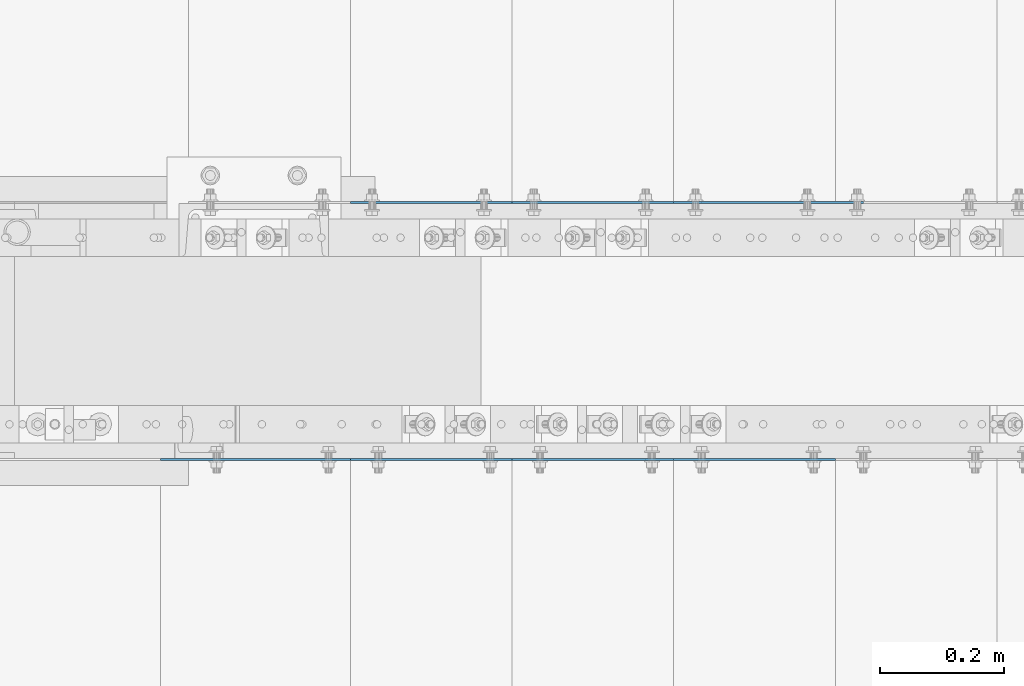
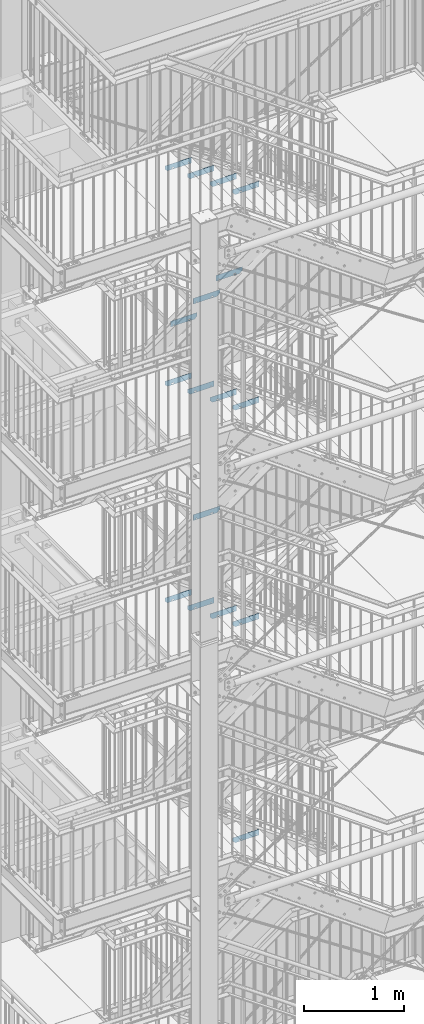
# One storey, part 169 of 825: 17 plates, 34 openings.
"""IFC2X3 building model written with IfcOpenShell, lengths in millimetres."""

from ifc_helpers import new_model, entity, si_unit, converted_unit, point, frame, frame_2d, origin, origin_with_axes, origin_2d_with_axis, place, context, project, spatial, polyline, circle_curve, line_curve, trimmed, segment, composite_curve, circle, outline, extrude, material, layer, layer_set, element, save


model = new_model("IFC2X3")

# Units and contexts
model_context = context("Model", 3, precision=1e-09, world=origin_with_axes())
ifc_project = project(units=[si_unit("LENGTHUNIT", "METRE", prefix="MILLI"), si_unit("AREAUNIT", "SQUARE_METRE"), si_unit("VOLUMEUNIT", "CUBIC_METRE"), converted_unit("PLANEANGLEUNIT", "DEGREE", entity("IfcPlaneAngleMeasure", 0.01745329), si_unit("PLANEANGLEUNIT", "RADIAN"), dimensions=[0, 0, 0, 0, 0, 0, 0])], contexts=[model_context])

# Site, building, storey
site_placement = place(None, origin_with_axes())
site = spatial("IfcSite", under=ifc_project, at=site_placement, Name="Cnopf'sche Kinderklinik", CompositionType="ELEMENT")
building_placement = place(site_placement, origin_with_axes())
building = spatial("IfcBuilding", under=site, at=building_placement, Name="Struktur 1", CompositionType="ELEMENT")
storey_placement = place(building_placement, origin_with_axes())
storey = spatial("IfcBuildingStorey", under=building, at=storey_placement, Name="Default Storey", CompositionType="ELEMENT", Elevation=0.0)

# Plate, openings
ifc_material = material(Name="S235JR")
ifc_layer = layer(ifc_material, 3.0)
ifc_layer_set = layer_set([ifc_layer], Name="S235JR")
plate_1_placement = place(None, frame((5756.713402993, 6149.736971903, 12995.4285716), z_axis=(0.0, -1.0, 0.0), x_axis=(0.0, 0.0, -1.0)))
plate_1 = element("IfcPlate", 1, at=plate_1_placement, inside=storey, material=ifc_layer_set, Name="Grate_Step#10", ObjectType="Grate_Step#10", context=model_context, shape_type="SweptSolid", body=[
    extrude(outline(polyline([(0.0, 0.0), (70.0, 0.0), (70.0, 275.0), (40.0, 305.0), (0.0, 305.0), (0.0, 0.0)])), origin_with_axes(), (0.0, 0.0, 1.0), 3.0),
])
opening_1_placement = place(plate_1_placement, frame((55.0, 215.0, -0.5), z_axis=(0.0, 0.0, 1.0), x_axis=(0.0, 1.0, 0.0)))
element("IfcOpeningElement", 2, at=opening_1_placement, cuts=plate_1, ObjectType="Opening", context=model_context, shape_type="SweptSolid", body=[
    extrude(outline(composite_curve([segment(trimmed(line_curve((-9.5, -7.001), (1.0, 0.0), 19.0), [point((-9.5, -7.001))], [point((9.5, -7.001))], True, "CARTESIAN"), True, "CONTINUOUS"), segment(trimmed(circle_curve(frame_2d((9.5, 0.0), x_axis=(1.0, 0.0)), 7.001), [point((9.5, -7.001))], [point((9.5, 7.001))], True, "CARTESIAN"), True, "CONTINUOUS"), segment(trimmed(line_curve((9.5, 7.001), (-1.0, 0.0), 19.0), [point((9.5, 7.001))], [point((-9.5, 7.001))], True, "CARTESIAN"), True, "CONTINUOUS"), segment(trimmed(circle_curve(frame_2d((-9.5, 0.0), x_axis=(1.0, 0.0)), 7.001), [point((-9.5, 7.001))], [point((-9.5, -7.001))], True, "CARTESIAN"), True, "CONTINUOUS")], self_intersect=False)), origin(), (0.0, 0.0, 1.0), 4.0),
])
opening_2_placement = place(plate_1_placement, frame((55.0, 35.0, -0.5), z_axis=(0.0, 0.0, 1.0), x_axis=(0.0, 1.0, 0.0)))
element("IfcOpeningElement", 3, at=opening_2_placement, cuts=plate_1, ObjectType="Opening", context=model_context, shape_type="SweptSolid", body=[
    extrude(circle(Radius=7.001, at=origin_2d_with_axis()), origin(), (0.0, 0.0, 1.0), 4.0),
])

plate_2_placement = place(None, frame((6016.713402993, 6149.736971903, 15815.4285719), z_axis=(0.0, -1.0, 0.0), x_axis=(0.0, 0.0, -1.0)))
plate_2 = element("IfcPlate", 4, at=plate_2_placement, inside=storey, material=ifc_layer_set, Name="Grate_Step#17", ObjectType="Grate_Step#17", context=model_context, shape_type="SweptSolid", body=[
    extrude(outline(polyline([(0.0, 0.0), (70.0, 0.0), (70.0, 275.0), (40.0, 305.0), (0.0, 305.0), (0.0, 0.0)])), origin_with_axes(), (0.0, 0.0, 1.0), 3.0),
])
opening_3_placement = place(plate_2_placement, frame((55.0, 35.0, -0.5), z_axis=(0.0, 0.0, 1.0), x_axis=(0.0, 1.0, 0.0)))
element("IfcOpeningElement", 5, at=opening_3_placement, cuts=plate_2, ObjectType="Opening", context=model_context, shape_type="SweptSolid", body=[
    extrude(circle(Radius=7.001, at=origin_2d_with_axis()), origin(), (0.0, 0.0, 1.0), 4.0),
])
opening_4_placement = place(plate_2_placement, frame((55.0, 215.0, -0.5), z_axis=(0.0, 0.0, 1.0), x_axis=(0.0, 1.0, 0.0)))
element("IfcOpeningElement", 6, at=opening_4_placement, cuts=plate_2, ObjectType="Opening", context=model_context, shape_type="SweptSolid", body=[
    extrude(outline(composite_curve([segment(trimmed(line_curve((-9.5, -7.001), (1.0, 0.0), 19.0), [point((-9.5, -7.001))], [point((9.5, -7.001))], True, "CARTESIAN"), True, "CONTINUOUS"), segment(trimmed(circle_curve(frame_2d((9.5, 0.0), x_axis=(1.0, 0.0)), 7.001), [point((9.5, -7.001))], [point((9.5, 7.001))], True, "CARTESIAN"), True, "CONTINUOUS"), segment(trimmed(line_curve((9.5, 7.001), (-1.0, 0.0), 19.0), [point((9.5, 7.001))], [point((-9.5, 7.001))], True, "CARTESIAN"), True, "CONTINUOUS"), segment(trimmed(circle_curve(frame_2d((-9.5, 0.0), x_axis=(1.0, 0.0)), 7.001), [point((-9.5, 7.001))], [point((-9.5, -7.001))], True, "CARTESIAN"), True, "CONTINUOUS")], self_intersect=False)), origin(), (0.0, 0.0, 1.0), 4.0),
])

plate_3_placement = place(None, frame((5496.713402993, 6149.736971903, 15441.1428577), z_axis=(0.0, -1.0, 0.0), x_axis=(0.0, 0.0, -1.0)))
plate_3 = element("IfcPlate", 7, at=plate_3_placement, inside=storey, material=ifc_layer_set, Name="Grate_Step#3", ObjectType="Grate_Step#3", context=model_context, shape_type="SweptSolid", body=[
    extrude(outline(polyline([(0.0, 0.0), (70.0, 0.0), (70.0, 275.0), (40.0, 305.0), (0.0, 305.0), (0.0, 0.0)])), origin_with_axes(), (0.0, 0.0, 1.0), 3.0),
])
opening_5_placement = place(plate_3_placement, frame((55.0, 35.0, -0.5), z_axis=(0.0, 0.0, 1.0), x_axis=(0.0, 1.0, 0.0)))
element("IfcOpeningElement", 8, at=opening_5_placement, cuts=plate_3, ObjectType="Opening", context=model_context, shape_type="SweptSolid", body=[
    extrude(circle(Radius=7.001, at=origin_2d_with_axis()), origin(), (0.0, 0.0, 1.0), 4.0),
])
opening_6_placement = place(plate_3_placement, frame((55.0, 215.0, -0.5), z_axis=(0.0, 0.0, 1.0), x_axis=(0.0, 1.0, 0.0)))
element("IfcOpeningElement", 9, at=opening_6_placement, cuts=plate_3, ObjectType="Opening", context=model_context, shape_type="SweptSolid", body=[
    extrude(outline(composite_curve([segment(trimmed(line_curve((-9.5, -7.001), (1.0, 0.0), 19.0), [point((-9.5, -7.001))], [point((9.5, -7.001))], True, "CARTESIAN"), True, "CONTINUOUS"), segment(trimmed(circle_curve(frame_2d((9.5, 0.0), x_axis=(1.0, 0.0)), 7.001), [point((9.5, -7.001))], [point((9.5, 7.001))], True, "CARTESIAN"), True, "CONTINUOUS"), segment(trimmed(line_curve((9.5, 7.001), (-1.0, 0.0), 19.0), [point((9.5, 7.001))], [point((-9.5, 7.001))], True, "CARTESIAN"), True, "CONTINUOUS"), segment(trimmed(circle_curve(frame_2d((-9.5, 0.0), x_axis=(1.0, 0.0)), 7.001), [point((-9.5, 7.001))], [point((-9.5, -7.001))], True, "CARTESIAN"), True, "CONTINUOUS")], self_intersect=False)), origin(), (0.0, 0.0, 1.0), 4.0),
])

plate_4_placement = place(None, frame((5756.713402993, 6149.736971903, 15628.2857148), z_axis=(0.0, -1.0, 0.0), x_axis=(0.0, 0.0, -1.0)))
plate_4 = element("IfcPlate", 10, at=plate_4_placement, inside=storey, material=ifc_layer_set, Name="Grate_Step#10", ObjectType="Grate_Step#10", context=model_context, shape_type="SweptSolid", body=[
    extrude(outline(polyline([(0.0, 0.0), (70.0, 0.0), (70.0, 275.0), (40.0, 305.0), (0.0, 305.0), (0.0, 0.0)])), origin_with_axes(), (0.0, 0.0, 1.0), 3.0),
])
opening_7_placement = place(plate_4_placement, frame((55.0, 215.0, -0.5), z_axis=(0.0, 0.0, 1.0), x_axis=(0.0, 1.0, 0.0)))
element("IfcOpeningElement", 11, at=opening_7_placement, cuts=plate_4, ObjectType="Opening", context=model_context, shape_type="SweptSolid", body=[
    extrude(outline(composite_curve([segment(trimmed(line_curve((-9.5, -7.001), (1.0, 0.0), 19.0), [point((-9.5, -7.001))], [point((9.5, -7.001))], True, "CARTESIAN"), True, "CONTINUOUS"), segment(trimmed(circle_curve(frame_2d((9.5, 0.0), x_axis=(1.0, 0.0)), 7.001), [point((9.5, -7.001))], [point((9.5, 7.001))], True, "CARTESIAN"), True, "CONTINUOUS"), segment(trimmed(line_curve((9.5, 7.001), (-1.0, 0.0), 19.0), [point((9.5, 7.001))], [point((-9.5, 7.001))], True, "CARTESIAN"), True, "CONTINUOUS"), segment(trimmed(circle_curve(frame_2d((-9.5, 0.0), x_axis=(1.0, 0.0)), 7.001), [point((-9.5, 7.001))], [point((-9.5, -7.001))], True, "CARTESIAN"), True, "CONTINUOUS")], self_intersect=False)), origin(), (0.0, 0.0, 1.0), 4.0),
])
opening_8_placement = place(plate_4_placement, frame((55.0, 35.0, -0.5), z_axis=(0.0, 0.0, 1.0), x_axis=(0.0, 1.0, 0.0)))
element("IfcOpeningElement", 12, at=opening_8_placement, cuts=plate_4, ObjectType="Opening", context=model_context, shape_type="SweptSolid", body=[
    extrude(circle(Radius=7.001, at=origin_2d_with_axis()), origin(), (0.0, 0.0, 1.0), 4.0),
])

plate_5_placement = place(None, frame((6016.713402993, 5733.736971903, 12056.0714287), z_axis=(0.0, 1.0, 0.0), x_axis=(0.0, 0.0, -1.0)))
plate_5 = element("IfcPlate", 13, at=plate_5_placement, inside=storey, material=ifc_layer_set, Name="Grate_Step#24", ObjectType="Grate_Step#24", context=model_context, shape_type="SweptSolid", body=[
    extrude(outline(polyline([(0.0, 0.0), (70.0, 0.0), (70.0, 275.0), (40.0, 305.0), (0.0, 305.0), (0.0, 0.0)])), origin_with_axes(), (0.0, 0.0, 1.0), 3.0),
])
opening_9_placement = place(plate_5_placement, frame((55.0, 215.0, -0.5), z_axis=(0.0, 0.0, 1.0), x_axis=(0.0, 1.0, 0.0)))
element("IfcOpeningElement", 14, at=opening_9_placement, cuts=plate_5, ObjectType="Opening", context=model_context, shape_type="SweptSolid", body=[
    extrude(outline(composite_curve([segment(trimmed(line_curve((-9.5, -7.001), (1.0, 0.0), 19.0), [point((-9.5, -7.001))], [point((9.5, -7.001))], True, "CARTESIAN"), True, "CONTINUOUS"), segment(trimmed(circle_curve(frame_2d((9.5, 0.0), x_axis=(1.0, 0.0)), 7.001), [point((9.5, -7.001))], [point((9.5, 7.001))], True, "CARTESIAN"), True, "CONTINUOUS"), segment(trimmed(line_curve((9.5, 7.001), (-1.0, 0.0), 19.0), [point((9.5, 7.001))], [point((-9.5, 7.001))], True, "CARTESIAN"), True, "CONTINUOUS"), segment(trimmed(circle_curve(frame_2d((-9.5, 0.0), x_axis=(1.0, 0.0)), 7.001), [point((-9.5, 7.001))], [point((-9.5, -7.001))], True, "CARTESIAN"), True, "CONTINUOUS")], self_intersect=False)), origin(), (0.0, 0.0, 1.0), 4.0),
])
opening_10_placement = place(plate_5_placement, frame((55.0, 35.0, -0.5), z_axis=(0.0, 0.0, 1.0), x_axis=(0.0, 1.0, 0.0)))
element("IfcOpeningElement", 15, at=opening_10_placement, cuts=plate_5, ObjectType="Opening", context=model_context, shape_type="SweptSolid", body=[
    extrude(circle(Radius=7.001, at=origin_2d_with_axis()), origin(), (0.0, 0.0, 1.0), 4.0),
])

plate_6_placement = place(None, frame((5496.713402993, 5733.736971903, 12431.3571429), z_axis=(0.0, 1.0, 0.0), x_axis=(0.0, 0.0, -1.0)))
plate_6 = element("IfcPlate", 16, at=plate_6_placement, inside=storey, material=ifc_layer_set, Name="Grate_Step#38", ObjectType="Grate_Step#38", context=model_context, shape_type="SweptSolid", body=[
    extrude(outline(polyline([(0.0, 0.0), (70.0, 0.0), (70.0, 275.0), (40.0, 305.0), (0.0, 305.0), (0.0, 0.0)])), origin_with_axes(), (0.0, 0.0, 1.0), 3.0),
])
opening_11_placement = place(plate_6_placement, frame((55.0, 35.0, -0.5), z_axis=(0.0, 0.0, 1.0), x_axis=(0.0, 1.0, 0.0)))
element("IfcOpeningElement", 17, at=opening_11_placement, cuts=plate_6, ObjectType="Opening", context=model_context, shape_type="SweptSolid", body=[
    extrude(circle(Radius=7.001, at=origin_2d_with_axis()), origin(), (0.0, 0.0, 1.0), 4.0),
])
opening_12_placement = place(plate_6_placement, frame((55.0, 215.0, -0.5), z_axis=(0.0, 0.0, 1.0), x_axis=(0.0, 1.0, 0.0)))
element("IfcOpeningElement", 18, at=opening_12_placement, cuts=plate_6, ObjectType="Opening", context=model_context, shape_type="SweptSolid", body=[
    extrude(outline(composite_curve([segment(trimmed(line_curve((-9.5, -7.001), (1.0, 0.0), 19.0), [point((-9.5, -7.001))], [point((9.5, -7.001))], True, "CARTESIAN"), True, "CONTINUOUS"), segment(trimmed(circle_curve(frame_2d((9.5, 0.0), x_axis=(1.0, 0.0)), 7.001), [point((9.5, -7.001))], [point((9.5, 7.001))], True, "CARTESIAN"), True, "CONTINUOUS"), segment(trimmed(line_curve((9.5, 7.001), (-1.0, 0.0), 19.0), [point((9.5, 7.001))], [point((-9.5, 7.001))], True, "CARTESIAN"), True, "CONTINUOUS"), segment(trimmed(circle_curve(frame_2d((-9.5, 0.0), x_axis=(1.0, 0.0)), 7.001), [point((-9.5, 7.001))], [point((-9.5, -7.001))], True, "CARTESIAN"), True, "CONTINUOUS")], self_intersect=False)), origin(), (0.0, 0.0, 1.0), 4.0),
])

plate_7_placement = place(None, frame((5756.713402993, 5733.736971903, 12243.7142858), z_axis=(0.0, 1.0, 0.0), x_axis=(0.0, 0.0, -1.0)))
plate_7 = element("IfcPlate", 19, at=plate_7_placement, inside=storey, material=ifc_layer_set, Name="Grate_Step#31", ObjectType="Grate_Step#31", context=model_context, shape_type="SweptSolid", body=[
    extrude(outline(polyline([(0.0, 0.0), (70.0, 0.0), (70.0, 275.0), (40.0, 305.0), (0.0, 305.0), (0.0, 0.0)])), origin_with_axes(), (0.0, 0.0, 1.0), 3.0),
])
opening_13_placement = place(plate_7_placement, frame((55.0, 35.0, -0.5), z_axis=(0.0, 0.0, 1.0), x_axis=(0.0, 1.0, 0.0)))
element("IfcOpeningElement", 20, at=opening_13_placement, cuts=plate_7, ObjectType="Opening", context=model_context, shape_type="SweptSolid", body=[
    extrude(circle(Radius=7.001, at=origin_2d_with_axis()), origin(), (0.0, 0.0, 1.0), 4.0),
])
opening_14_placement = place(plate_7_placement, frame((55.0, 215.0, -0.5), z_axis=(0.0, 0.0, 1.0), x_axis=(0.0, 1.0, 0.0)))
element("IfcOpeningElement", 21, at=opening_14_placement, cuts=plate_7, ObjectType="Opening", context=model_context, shape_type="SweptSolid", body=[
    extrude(outline(composite_curve([segment(trimmed(line_curve((-9.5, -7.001), (1.0, 0.0), 19.0), [point((-9.5, -7.001))], [point((9.5, -7.001))], True, "CARTESIAN"), True, "CONTINUOUS"), segment(trimmed(circle_curve(frame_2d((9.5, 0.0), x_axis=(1.0, 0.0)), 7.001), [point((9.5, -7.001))], [point((9.5, 7.001))], True, "CARTESIAN"), True, "CONTINUOUS"), segment(trimmed(line_curve((9.5, 7.001), (-1.0, 0.0), 19.0), [point((9.5, 7.001))], [point((-9.5, 7.001))], True, "CARTESIAN"), True, "CONTINUOUS"), segment(trimmed(circle_curve(frame_2d((-9.5, 0.0), x_axis=(1.0, 0.0)), 7.001), [point((-9.5, 7.001))], [point((-9.5, -7.001))], True, "CARTESIAN"), True, "CONTINUOUS")], self_intersect=False)), origin(), (0.0, 0.0, 1.0), 4.0),
])

plate_8_placement = place(None, frame((6276.713402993, 5733.736971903, 11868.4285716), z_axis=(0.0, 1.0, 0.0), x_axis=(0.0, 0.0, -1.0)))
plate_8 = element("IfcPlate", 22, at=plate_8_placement, inside=storey, material=ifc_layer_set, Name="Grate_Step#17", ObjectType="Grate_Step#17", context=model_context, shape_type="SweptSolid", body=[
    extrude(outline(polyline([(0.0, 0.0), (70.0, 0.0), (70.0, 275.0), (40.0, 305.0), (0.0, 305.0), (0.0, 0.0)])), origin_with_axes(), (0.0, 0.0, 1.0), 3.0),
])
opening_15_placement = place(plate_8_placement, frame((55.0, 35.0, -0.5), z_axis=(0.0, 0.0, 1.0), x_axis=(0.0, 1.0, 0.0)))
element("IfcOpeningElement", 23, at=opening_15_placement, cuts=plate_8, ObjectType="Opening", context=model_context, shape_type="SweptSolid", body=[
    extrude(circle(Radius=7.001, at=origin_2d_with_axis()), origin(), (0.0, 0.0, 1.0), 4.0),
])
opening_16_placement = place(plate_8_placement, frame((55.0, 215.0, -0.5), z_axis=(0.0, 0.0, 1.0), x_axis=(0.0, 1.0, 0.0)))
element("IfcOpeningElement", 24, at=opening_16_placement, cuts=plate_8, ObjectType="Opening", context=model_context, shape_type="SweptSolid", body=[
    extrude(outline(composite_curve([segment(trimmed(line_curve((-9.5, -7.001), (1.0, 0.0), 19.0), [point((-9.5, -7.001))], [point((9.5, -7.001))], True, "CARTESIAN"), True, "CONTINUOUS"), segment(trimmed(circle_curve(frame_2d((9.5, 0.0), x_axis=(1.0, 0.0)), 7.001), [point((9.5, -7.001))], [point((9.5, 7.001))], True, "CARTESIAN"), True, "CONTINUOUS"), segment(trimmed(line_curve((9.5, 7.001), (-1.0, 0.0), 19.0), [point((9.5, 7.001))], [point((-9.5, 7.001))], True, "CARTESIAN"), True, "CONTINUOUS"), segment(trimmed(circle_curve(frame_2d((-9.5, 0.0), x_axis=(1.0, 0.0)), 7.001), [point((-9.5, 7.001))], [point((-9.5, -7.001))], True, "CARTESIAN"), True, "CONTINUOUS")], self_intersect=False)), origin(), (0.0, 0.0, 1.0), 4.0),
])

plate_9_placement = place(None, frame((6276.713402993, 5733.736971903, 14501.1428572), z_axis=(0.0, 1.0, 0.0), x_axis=(0.0, 0.0, -1.0)))
plate_9 = element("IfcPlate", 25, at=plate_9_placement, inside=storey, material=ifc_layer_set, Name="Grate_Step#17", ObjectType="Grate_Step#17", context=model_context, shape_type="SweptSolid", body=[
    extrude(outline(polyline([(0.0, 0.0), (70.0, 0.0), (70.0, 275.0), (40.0, 305.0), (0.0, 305.0), (0.0, 0.0)])), origin_with_axes(), (0.0, 0.0, 1.0), 3.0),
])
opening_17_placement = place(plate_9_placement, frame((55.0, 215.0, -0.5), z_axis=(0.0, 0.0, 1.0), x_axis=(0.0, 1.0, 0.0)))
element("IfcOpeningElement", 26, at=opening_17_placement, cuts=plate_9, ObjectType="Opening", context=model_context, shape_type="SweptSolid", body=[
    extrude(outline(composite_curve([segment(trimmed(line_curve((-9.5, -7.001), (1.0, 0.0), 19.0), [point((-9.5, -7.001))], [point((9.5, -7.001))], True, "CARTESIAN"), True, "CONTINUOUS"), segment(trimmed(circle_curve(frame_2d((9.5, 0.0), x_axis=(1.0, 0.0)), 7.001), [point((9.5, -7.001))], [point((9.5, 7.001))], True, "CARTESIAN"), True, "CONTINUOUS"), segment(trimmed(line_curve((9.5, 7.001), (-1.0, 0.0), 19.0), [point((9.5, 7.001))], [point((-9.5, 7.001))], True, "CARTESIAN"), True, "CONTINUOUS"), segment(trimmed(circle_curve(frame_2d((-9.5, 0.0), x_axis=(1.0, 0.0)), 7.001), [point((-9.5, 7.001))], [point((-9.5, -7.001))], True, "CARTESIAN"), True, "CONTINUOUS")], self_intersect=False)), origin(), (0.0, 0.0, 1.0), 4.0),
])
opening_18_placement = place(plate_9_placement, frame((55.0, 35.0, -0.5), z_axis=(0.0, 0.0, 1.0), x_axis=(0.0, 1.0, 0.0)))
element("IfcOpeningElement", 27, at=opening_18_placement, cuts=plate_9, ObjectType="Opening", context=model_context, shape_type="SweptSolid", body=[
    extrude(circle(Radius=7.001, at=origin_2d_with_axis()), origin(), (0.0, 0.0, 1.0), 4.0),
])

plate_10_placement = place(None, frame((6016.713402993, 5733.736971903, 14689.3571429), z_axis=(0.0, 1.0, 0.0), x_axis=(0.0, 0.0, -1.0)))
plate_10 = element("IfcPlate", 28, at=plate_10_placement, inside=storey, material=ifc_layer_set, Name="Grate_Step#24", ObjectType="Grate_Step#24", context=model_context, shape_type="SweptSolid", body=[
    extrude(outline(polyline([(0.0, 0.0), (70.0, 0.0), (70.0, 275.0), (40.0, 305.0), (0.0, 305.0), (0.0, 0.0)])), origin_with_axes(), (0.0, 0.0, 1.0), 3.0),
])
opening_19_placement = place(plate_10_placement, frame((55.0, 35.0, -0.5), z_axis=(0.0, 0.0, 1.0), x_axis=(0.0, 1.0, 0.0)))
element("IfcOpeningElement", 29, at=opening_19_placement, cuts=plate_10, ObjectType="Opening", context=model_context, shape_type="SweptSolid", body=[
    extrude(circle(Radius=7.001, at=origin_2d_with_axis()), origin(), (0.0, 0.0, 1.0), 4.0),
])
opening_20_placement = place(plate_10_placement, frame((55.0, 215.0, -0.5), z_axis=(0.0, 0.0, 1.0), x_axis=(0.0, 1.0, 0.0)))
element("IfcOpeningElement", 30, at=opening_20_placement, cuts=plate_10, ObjectType="Opening", context=model_context, shape_type="SweptSolid", body=[
    extrude(outline(composite_curve([segment(trimmed(line_curve((-9.5, -7.001), (1.0, 0.0), 19.0), [point((-9.5, -7.001))], [point((9.5, -7.001))], True, "CARTESIAN"), True, "CONTINUOUS"), segment(trimmed(circle_curve(frame_2d((9.5, 0.0), x_axis=(1.0, 0.0)), 7.001), [point((9.5, -7.001))], [point((9.5, 7.001))], True, "CARTESIAN"), True, "CONTINUOUS"), segment(trimmed(line_curve((9.5, 7.001), (-1.0, 0.0), 19.0), [point((9.5, 7.001))], [point((-9.5, 7.001))], True, "CARTESIAN"), True, "CONTINUOUS"), segment(trimmed(circle_curve(frame_2d((-9.5, 0.0), x_axis=(1.0, 0.0)), 7.001), [point((-9.5, 7.001))], [point((-9.5, -7.001))], True, "CARTESIAN"), True, "CONTINUOUS")], self_intersect=False)), origin(), (0.0, 0.0, 1.0), 4.0),
])

plate_11_placement = place(None, frame((5756.713402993, 5733.736971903, 14877.5714286), z_axis=(0.0, 1.0, 0.0), x_axis=(0.0, 0.0, -1.0)))
plate_11 = element("IfcPlate", 31, at=plate_11_placement, inside=storey, material=ifc_layer_set, Name="Grate_Step#31", ObjectType="Grate_Step#31", context=model_context, shape_type="SweptSolid", body=[
    extrude(outline(polyline([(0.0, 0.0), (70.0, 0.0), (70.0, 275.0), (40.0, 305.0), (0.0, 305.0), (0.0, 0.0)])), origin_with_axes(), (0.0, 0.0, 1.0), 3.0),
])
opening_21_placement = place(plate_11_placement, frame((55.0, 35.0, -0.5), z_axis=(0.0, 0.0, 1.0), x_axis=(0.0, 1.0, 0.0)))
element("IfcOpeningElement", 32, at=opening_21_placement, cuts=plate_11, ObjectType="Opening", context=model_context, shape_type="SweptSolid", body=[
    extrude(circle(Radius=7.001, at=origin_2d_with_axis()), origin(), (0.0, 0.0, 1.0), 4.0),
])
opening_22_placement = place(plate_11_placement, frame((55.0, 215.0, -0.5), z_axis=(0.0, 0.0, 1.0), x_axis=(0.0, 1.0, 0.0)))
element("IfcOpeningElement", 33, at=opening_22_placement, cuts=plate_11, ObjectType="Opening", context=model_context, shape_type="SweptSolid", body=[
    extrude(outline(composite_curve([segment(trimmed(line_curve((-9.5, -7.001), (1.0, 0.0), 19.0), [point((-9.5, -7.001))], [point((9.5, -7.001))], True, "CARTESIAN"), True, "CONTINUOUS"), segment(trimmed(circle_curve(frame_2d((9.5, 0.0), x_axis=(1.0, 0.0)), 7.001), [point((9.5, -7.001))], [point((9.5, 7.001))], True, "CARTESIAN"), True, "CONTINUOUS"), segment(trimmed(line_curve((9.5, 7.001), (-1.0, 0.0), 19.0), [point((9.5, 7.001))], [point((-9.5, 7.001))], True, "CARTESIAN"), True, "CONTINUOUS"), segment(trimmed(circle_curve(frame_2d((-9.5, 0.0), x_axis=(1.0, 0.0)), 7.001), [point((-9.5, 7.001))], [point((-9.5, -7.001))], True, "CARTESIAN"), True, "CONTINUOUS")], self_intersect=False)), origin(), (0.0, 0.0, 1.0), 4.0),
])

plate_12_placement = place(None, frame((5496.713402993, 5733.736971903, 15065.7857143), z_axis=(0.0, 1.0, 0.0), x_axis=(0.0, 0.0, -1.0)))
plate_12 = element("IfcPlate", 34, at=plate_12_placement, inside=storey, material=ifc_layer_set, Name="Grate_Step#38", ObjectType="Grate_Step#38", context=model_context, shape_type="SweptSolid", body=[
    extrude(outline(polyline([(0.0, 0.0), (70.0, 0.0), (70.0, 275.0), (40.0, 305.0), (0.0, 305.0), (0.0, 0.0)])), origin_with_axes(), (0.0, 0.0, 1.0), 3.0),
])
opening_23_placement = place(plate_12_placement, frame((55.0, 215.0, -0.5), z_axis=(0.0, 0.0, 1.0), x_axis=(0.0, 1.0, 0.0)))
element("IfcOpeningElement", 35, at=opening_23_placement, cuts=plate_12, ObjectType="Opening", context=model_context, shape_type="SweptSolid", body=[
    extrude(outline(composite_curve([segment(trimmed(line_curve((-9.5, -7.001), (1.0, 0.0), 19.0), [point((-9.5, -7.001))], [point((9.5, -7.001))], True, "CARTESIAN"), True, "CONTINUOUS"), segment(trimmed(circle_curve(frame_2d((9.5, 0.0), x_axis=(1.0, 0.0)), 7.001), [point((9.5, -7.001))], [point((9.5, 7.001))], True, "CARTESIAN"), True, "CONTINUOUS"), segment(trimmed(line_curve((9.5, 7.001), (-1.0, 0.0), 19.0), [point((9.5, 7.001))], [point((-9.5, 7.001))], True, "CARTESIAN"), True, "CONTINUOUS"), segment(trimmed(circle_curve(frame_2d((-9.5, 0.0), x_axis=(1.0, 0.0)), 7.001), [point((-9.5, 7.001))], [point((-9.5, -7.001))], True, "CARTESIAN"), True, "CONTINUOUS")], self_intersect=False)), origin(), (0.0, 0.0, 1.0), 4.0),
])
opening_24_placement = place(plate_12_placement, frame((55.0, 35.0, -0.5), z_axis=(0.0, 0.0, 1.0), x_axis=(0.0, 1.0, 0.0)))
element("IfcOpeningElement", 36, at=opening_24_placement, cuts=plate_12, ObjectType="Opening", context=model_context, shape_type="SweptSolid", body=[
    extrude(circle(Radius=7.001, at=origin_2d_with_axis()), origin(), (0.0, 0.0, 1.0), 4.0),
])

plate_13_placement = place(None, frame((6276.713402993, 5733.736971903, 17125.4285716), z_axis=(0.0, 1.0, 0.0), x_axis=(0.0, 0.0, -1.0)))
plate_13 = element("IfcPlate", 37, at=plate_13_placement, inside=storey, material=ifc_layer_set, Name="Grate_Step#17", ObjectType="Grate_Step#17", context=model_context, shape_type="SweptSolid", body=[
    extrude(outline(polyline([(0.0, 0.0), (70.0, 0.0), (70.0, 275.0), (40.0, 305.0), (0.0, 305.0), (0.0, 0.0)])), origin_with_axes(), (0.0, 0.0, 1.0), 3.0),
])
opening_25_placement = place(plate_13_placement, frame((55.0, 35.0, -0.5), z_axis=(0.0, 0.0, 1.0), x_axis=(0.0, 1.0, 0.0)))
element("IfcOpeningElement", 38, at=opening_25_placement, cuts=plate_13, ObjectType="Opening", context=model_context, shape_type="SweptSolid", body=[
    extrude(circle(Radius=7.001, at=origin_2d_with_axis()), origin(), (0.0, 0.0, 1.0), 4.0),
])
opening_26_placement = place(plate_13_placement, frame((55.0, 215.0, -0.5), z_axis=(0.0, 0.0, 1.0), x_axis=(0.0, 1.0, 0.0)))
element("IfcOpeningElement", 39, at=opening_26_placement, cuts=plate_13, ObjectType="Opening", context=model_context, shape_type="SweptSolid", body=[
    extrude(outline(composite_curve([segment(trimmed(line_curve((-9.5, -7.001), (1.0, 0.0), 19.0), [point((-9.5, -7.001))], [point((9.5, -7.001))], True, "CARTESIAN"), True, "CONTINUOUS"), segment(trimmed(circle_curve(frame_2d((9.5, 0.0), x_axis=(1.0, 0.0)), 7.001), [point((9.5, -7.001))], [point((9.5, 7.001))], True, "CARTESIAN"), True, "CONTINUOUS"), segment(trimmed(line_curve((9.5, 7.001), (-1.0, 0.0), 19.0), [point((9.5, 7.001))], [point((-9.5, 7.001))], True, "CARTESIAN"), True, "CONTINUOUS"), segment(trimmed(circle_curve(frame_2d((-9.5, 0.0), x_axis=(1.0, 0.0)), 7.001), [point((-9.5, 7.001))], [point((-9.5, -7.001))], True, "CARTESIAN"), True, "CONTINUOUS")], self_intersect=False)), origin(), (0.0, 0.0, 1.0), 4.0),
])

plate_14_placement = place(None, frame((6016.713402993, 5733.736971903, 17312.5714287), z_axis=(0.0, 1.0, 0.0), x_axis=(0.0, 0.0, -1.0)))
plate_14 = element("IfcPlate", 40, at=plate_14_placement, inside=storey, material=ifc_layer_set, Name="Grate_Step#24", ObjectType="Grate_Step#24", context=model_context, shape_type="SweptSolid", body=[
    extrude(outline(polyline([(0.0, 0.0), (70.0, 0.0), (70.0, 275.0), (40.0, 305.0), (0.0, 305.0), (0.0, 0.0)])), origin_with_axes(), (0.0, 0.0, 1.0), 3.0),
])
opening_27_placement = place(plate_14_placement, frame((55.0, 35.0, -0.5), z_axis=(0.0, 0.0, 1.0), x_axis=(0.0, 1.0, 0.0)))
element("IfcOpeningElement", 41, at=opening_27_placement, cuts=plate_14, ObjectType="Opening", context=model_context, shape_type="SweptSolid", body=[
    extrude(circle(Radius=7.001, at=origin_2d_with_axis()), origin(), (0.0, 0.0, 1.0), 4.0),
])
opening_28_placement = place(plate_14_placement, frame((55.0, 215.0, -0.5), z_axis=(0.0, 0.0, 1.0), x_axis=(0.0, 1.0, 0.0)))
element("IfcOpeningElement", 42, at=opening_28_placement, cuts=plate_14, ObjectType="Opening", context=model_context, shape_type="SweptSolid", body=[
    extrude(outline(composite_curve([segment(trimmed(line_curve((-9.5, -7.001), (1.0, 0.0), 19.0), [point((-9.5, -7.001))], [point((9.5, -7.001))], True, "CARTESIAN"), True, "CONTINUOUS"), segment(trimmed(circle_curve(frame_2d((9.5, 0.0), x_axis=(1.0, 0.0)), 7.001), [point((9.5, -7.001))], [point((9.5, 7.001))], True, "CARTESIAN"), True, "CONTINUOUS"), segment(trimmed(line_curve((9.5, 7.001), (-1.0, 0.0), 19.0), [point((9.5, 7.001))], [point((-9.5, 7.001))], True, "CARTESIAN"), True, "CONTINUOUS"), segment(trimmed(circle_curve(frame_2d((-9.5, 0.0), x_axis=(1.0, 0.0)), 7.001), [point((-9.5, 7.001))], [point((-9.5, -7.001))], True, "CARTESIAN"), True, "CONTINUOUS")], self_intersect=False)), origin(), (0.0, 0.0, 1.0), 4.0),
])

plate_15_placement = place(None, frame((5756.713402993, 5733.736971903, 17499.7142858), z_axis=(0.0, 1.0, 0.0), x_axis=(0.0, 0.0, -1.0)))
plate_15 = element("IfcPlate", 43, at=plate_15_placement, inside=storey, material=ifc_layer_set, Name="Grate_Step#31", ObjectType="Grate_Step#31", context=model_context, shape_type="SweptSolid", body=[
    extrude(outline(polyline([(0.0, 0.0), (70.0, 0.0), (70.0, 275.0), (40.0, 305.0), (0.0, 305.0), (0.0, 0.0)])), origin_with_axes(), (0.0, 0.0, 1.0), 3.0),
])
opening_29_placement = place(plate_15_placement, frame((55.0, 35.0, -0.5), z_axis=(0.0, 0.0, 1.0), x_axis=(0.0, 1.0, 0.0)))
element("IfcOpeningElement", 44, at=opening_29_placement, cuts=plate_15, ObjectType="Opening", context=model_context, shape_type="SweptSolid", body=[
    extrude(circle(Radius=7.001, at=origin_2d_with_axis()), origin(), (0.0, 0.0, 1.0), 4.0),
])
opening_30_placement = place(plate_15_placement, frame((55.0, 215.0, -0.5), z_axis=(0.0, 0.0, 1.0), x_axis=(0.0, 1.0, 0.0)))
element("IfcOpeningElement", 45, at=opening_30_placement, cuts=plate_15, ObjectType="Opening", context=model_context, shape_type="SweptSolid", body=[
    extrude(outline(composite_curve([segment(trimmed(line_curve((-9.5, -7.001), (1.0, 0.0), 19.0), [point((-9.5, -7.001))], [point((9.5, -7.001))], True, "CARTESIAN"), True, "CONTINUOUS"), segment(trimmed(circle_curve(frame_2d((9.5, 0.0), x_axis=(1.0, 0.0)), 7.001), [point((9.5, -7.001))], [point((9.5, 7.001))], True, "CARTESIAN"), True, "CONTINUOUS"), segment(trimmed(line_curve((9.5, 7.001), (-1.0, 0.0), 19.0), [point((9.5, 7.001))], [point((-9.5, 7.001))], True, "CARTESIAN"), True, "CONTINUOUS"), segment(trimmed(circle_curve(frame_2d((-9.5, 0.0), x_axis=(1.0, 0.0)), 7.001), [point((-9.5, 7.001))], [point((-9.5, -7.001))], True, "CARTESIAN"), True, "CONTINUOUS")], self_intersect=False)), origin(), (0.0, 0.0, 1.0), 4.0),
])

plate_16_placement = place(None, frame((5496.713402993, 5733.736971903, 17686.8571429), z_axis=(0.0, 1.0, 0.0), x_axis=(0.0, 0.0, -1.0)))
plate_16 = element("IfcPlate", 46, at=plate_16_placement, inside=storey, material=ifc_layer_set, Name="Grate_Step#38", ObjectType="Grate_Step#38", context=model_context, shape_type="SweptSolid", body=[
    extrude(outline(polyline([(0.0, 0.0), (70.0, 0.0), (70.0, 275.0), (40.0, 305.0), (0.0, 305.0), (0.0, 0.0)])), origin_with_axes(), (0.0, 0.0, 1.0), 3.0),
])
opening_31_placement = place(plate_16_placement, frame((55.0, 215.0, -0.5), z_axis=(0.0, 0.0, 1.0), x_axis=(0.0, 1.0, 0.0)))
element("IfcOpeningElement", 47, at=opening_31_placement, cuts=plate_16, ObjectType="Opening", context=model_context, shape_type="SweptSolid", body=[
    extrude(outline(composite_curve([segment(trimmed(line_curve((-9.5, -7.001), (1.0, 0.0), 19.0), [point((-9.5, -7.001))], [point((9.5, -7.001))], True, "CARTESIAN"), True, "CONTINUOUS"), segment(trimmed(circle_curve(frame_2d((9.5, 0.0), x_axis=(1.0, 0.0)), 7.001), [point((9.5, -7.001))], [point((9.5, 7.001))], True, "CARTESIAN"), True, "CONTINUOUS"), segment(trimmed(line_curve((9.5, 7.001), (-1.0, 0.0), 19.0), [point((9.5, 7.001))], [point((-9.5, 7.001))], True, "CARTESIAN"), True, "CONTINUOUS"), segment(trimmed(circle_curve(frame_2d((-9.5, 0.0), x_axis=(1.0, 0.0)), 7.001), [point((-9.5, 7.001))], [point((-9.5, -7.001))], True, "CARTESIAN"), True, "CONTINUOUS")], self_intersect=False)), origin(), (0.0, 0.0, 1.0), 4.0),
])
opening_32_placement = place(plate_16_placement, frame((55.0, 35.0, -0.5), z_axis=(0.0, 0.0, 1.0), x_axis=(0.0, 1.0, 0.0)))
element("IfcOpeningElement", 48, at=opening_32_placement, cuts=plate_16, ObjectType="Opening", context=model_context, shape_type="SweptSolid", body=[
    extrude(circle(Radius=7.001, at=origin_2d_with_axis()), origin(), (0.0, 0.0, 1.0), 4.0),
])

plate_17_placement = place(None, frame((6276.713402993, 5733.736971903, 9240.0), z_axis=(0.0, 1.0, 0.0), x_axis=(0.0, 0.0, -1.0)))
plate_17 = element("IfcPlate", 49, at=plate_17_placement, inside=storey, material=ifc_layer_set, Name="Grate_Step#17", ObjectType="Grate_Step#17", context=model_context, shape_type="SweptSolid", body=[
    extrude(outline(polyline([(0.0, 0.0), (70.0, 0.0), (70.0, 275.0), (40.0, 305.0), (0.0, 305.0), (0.0, 0.0)])), origin_with_axes(), (0.0, 0.0, 1.0), 3.0),
])
opening_33_placement = place(plate_17_placement, frame((55.0, 215.0, -0.5), z_axis=(0.0, 0.0, 1.0), x_axis=(0.0, 1.0, 0.0)))
element("IfcOpeningElement", 50, at=opening_33_placement, cuts=plate_17, ObjectType="Opening", context=model_context, shape_type="SweptSolid", body=[
    extrude(outline(composite_curve([segment(trimmed(line_curve((-9.5, -7.001), (1.0, 0.0), 19.0), [point((-9.5, -7.001))], [point((9.5, -7.001))], True, "CARTESIAN"), True, "CONTINUOUS"), segment(trimmed(circle_curve(frame_2d((9.5, 0.0), x_axis=(1.0, 0.0)), 7.001), [point((9.5, -7.001))], [point((9.5, 7.001))], True, "CARTESIAN"), True, "CONTINUOUS"), segment(trimmed(line_curve((9.5, 7.001), (-1.0, 0.0), 19.0), [point((9.5, 7.001))], [point((-9.5, 7.001))], True, "CARTESIAN"), True, "CONTINUOUS"), segment(trimmed(circle_curve(frame_2d((-9.5, 0.0), x_axis=(1.0, 0.0)), 7.001), [point((-9.5, 7.001))], [point((-9.5, -7.001))], True, "CARTESIAN"), True, "CONTINUOUS")], self_intersect=False)), origin(), (0.0, 0.0, 1.0), 4.0),
])
opening_34_placement = place(plate_17_placement, frame((55.0, 35.0, -0.5), z_axis=(0.0, 0.0, 1.0), x_axis=(0.0, 1.0, 0.0)))
element("IfcOpeningElement", 51, at=opening_34_placement, cuts=plate_17, ObjectType="Opening", context=model_context, shape_type="SweptSolid", body=[
    extrude(circle(Radius=7.001, at=origin_2d_with_axis()), origin(), (0.0, 0.0, 1.0), 4.0),
])

save(model, "model.ifc")
